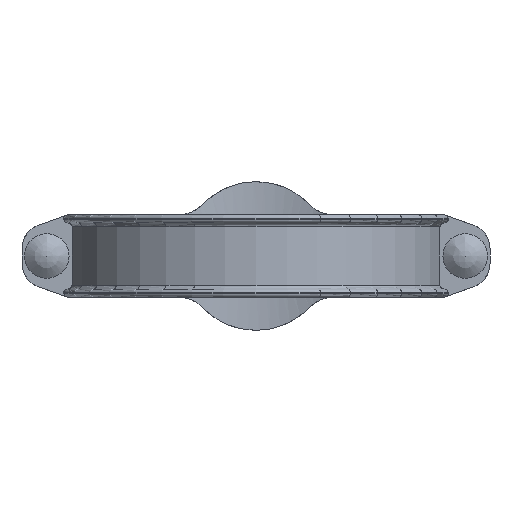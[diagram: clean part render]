
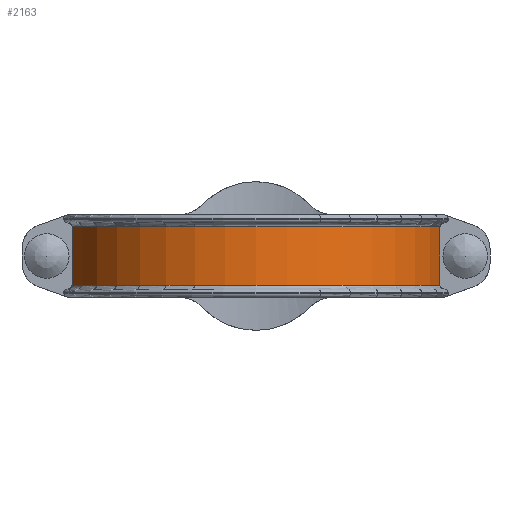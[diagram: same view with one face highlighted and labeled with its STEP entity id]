
A CAD part, front view. The second image highlights one B-rep face of the part: STEP entity #2163.
In plain terms, the highlighted cylindrical face has radius 146.177 mm (diameter 292.354 mm), a partial arc.
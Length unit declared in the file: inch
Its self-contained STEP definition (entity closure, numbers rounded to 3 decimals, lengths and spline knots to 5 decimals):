
#119=CYLINDRICAL_SURFACE('',#2374,5.755);
#208=CIRCLE('',#2373,5.755);
#209=CIRCLE('',#2375,5.755);
#296=FACE_OUTER_BOUND('',#414,.T.);
#414=EDGE_LOOP('',(#1775,#1776,#1777,#1778));
#624=LINE('',#4418,#780);
#625=LINE('',#4421,#781);
#780=VECTOR('',#2891,0.3937);
#781=VECTOR('',#2894,0.3937);
#986=VERTEX_POINT('',#4393);
#987=VERTEX_POINT('',#4404);
#988=VERTEX_POINT('',#4417);
#989=VERTEX_POINT('',#4419);
#1270=EDGE_CURVE('',#986,#987,#208,.T.);
#1272=EDGE_CURVE('',#988,#986,#624,.T.);
#1273=EDGE_CURVE('',#988,#989,#209,.T.);
#1274=EDGE_CURVE('',#987,#989,#625,.T.);
#1775=ORIENTED_EDGE('',*,*,#1272,.F.);
#1776=ORIENTED_EDGE('',*,*,#1273,.T.);
#1777=ORIENTED_EDGE('',*,*,#1274,.F.);
#1778=ORIENTED_EDGE('',*,*,#1270,.F.);
#2163=ADVANCED_FACE('',(#296),#119,.T.);
#2373=AXIS2_PLACEMENT_3D('',#4405,#2887,#2888);
#2374=AXIS2_PLACEMENT_3D('',#4416,#2889,#2890);
#2375=AXIS2_PLACEMENT_3D('',#4420,#2892,#2893);
#2887=DIRECTION('center_axis',(0.,0.,1.));
#2888=DIRECTION('ref_axis',(-1.,0.,0.));
#2889=DIRECTION('center_axis',(0.,0.,1.));
#2890=DIRECTION('ref_axis',(-1.,0.,0.));
#2891=DIRECTION('',(0.,0.,1.));
#2892=DIRECTION('center_axis',(0.,0.,1.));
#2893=DIRECTION('ref_axis',(-1.,0.,0.));
#2894=DIRECTION('',(0.,0.,-1.));
#4393=CARTESIAN_POINT('',(-5.57141,-1.442,0.88));
#4404=CARTESIAN_POINT('',(5.57141,-1.442,0.88));
#4405=CARTESIAN_POINT('Origin',(0.,0.,
0.88));
#4416=CARTESIAN_POINT('Origin',(0.,0.,0.));
#4417=CARTESIAN_POINT('',(-5.57141,-1.442,-0.88));
#4418=CARTESIAN_POINT('',(-5.57141,-1.442,0.));
#4419=CARTESIAN_POINT('',(5.57141,-1.442,-0.88));
#4420=CARTESIAN_POINT('Origin',(0.,0.,
-0.88));
#4421=CARTESIAN_POINT('',(5.57141,-1.442,0.));
